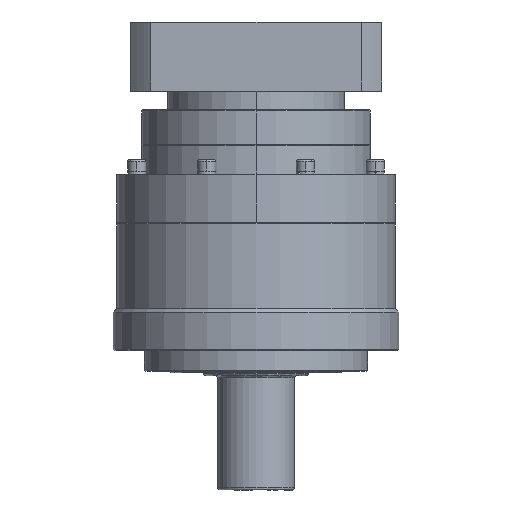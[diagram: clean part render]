
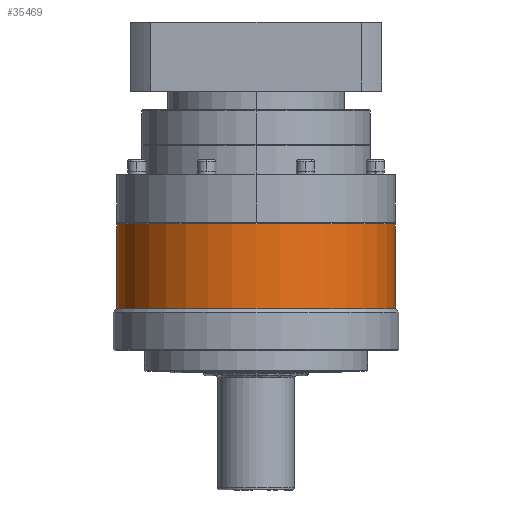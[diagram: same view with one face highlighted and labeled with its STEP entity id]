
A CAD part, front view. The second image highlights one B-rep face of the part: STEP entity #35469.
In plain terms, the highlighted cylindrical face has radius 100 mm (diameter 200 mm), a partial arc.
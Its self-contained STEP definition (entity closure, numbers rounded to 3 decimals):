
#588 = DIRECTION ( 'NONE',  ( 0., 0., 1. ) ) ;
#781 = DIRECTION ( 'NONE',  ( 0., 0., 1. ) ) ;
#1391 = CARTESIAN_POINT ( 'NONE',  ( 42.343, 18.696, -8.25 ) ) ;
#3142 = EDGE_CURVE ( 'NONE', #7784, #40840, #15140, .T. ) ;
#3430 = DIRECTION ( 'NONE',  ( 0., 0., 1. ) ) ;
#3616 = CARTESIAN_POINT ( 'NONE',  ( 42.343, 18.696, -331.063 ) ) ;
#3713 = CYLINDRICAL_SURFACE ( 'NONE', #22245, 100. ) ;
#3859 = DIRECTION ( 'NONE',  ( 1., 0., 0. ) ) ;
#4079 = EDGE_CURVE ( 'NONE', #27295, #40840, #36646, .T. ) ;
#7666 = EDGE_LOOP ( 'NONE', ( #34136, #22342, #11146, #18364 ) ) ;
#7784 = VERTEX_POINT ( 'NONE', #11626 ) ;
#9269 = EDGE_CURVE ( 'NONE', #35922, #7784, #22807, .T. ) ;
#9848 = CARTESIAN_POINT ( 'NONE',  ( -157.657, 18.696, -8.25 ) ) ;
#11146 = ORIENTED_EDGE ( 'NONE', *, *, #4079, .T. ) ;
#11626 = CARTESIAN_POINT ( 'NONE',  ( -157.657, 18.696, 52.45 ) ) ;
#15140 = CIRCLE ( 'NONE', #38090, 100. ) ;
#15761 = CARTESIAN_POINT ( 'NONE',  ( -57.657, 18.696, -8.25 ) ) ;
#15911 = DIRECTION ( 'NONE',  ( 0., 0., 1. ) ) ;
#16631 = DIRECTION ( 'NONE',  ( -1., 0., 0. ) ) ;
#16736 = CARTESIAN_POINT ( 'NONE',  ( -157.657, 18.696, -331.063 ) ) ;
#18364 = ORIENTED_EDGE ( 'NONE', *, *, #3142, .F. ) ;
#22245 = AXIS2_PLACEMENT_3D ( 'NONE', #23526, #39882, #3859 ) ;
#22342 = ORIENTED_EDGE ( 'NONE', *, *, #32944, .T. ) ;
#22807 = LINE ( 'NONE', #16736, #33099 ) ;
#23526 = CARTESIAN_POINT ( 'NONE',  ( -57.657, 18.696, -331.063 ) ) ;
#27295 = VERTEX_POINT ( 'NONE', #1391 ) ;
#27493 = CIRCLE ( 'NONE', #33115, 100. ) ;
#27921 = VECTOR ( 'NONE', #588, 1000. ) ;
#29959 = CARTESIAN_POINT ( 'NONE',  ( -57.657, 18.696, 52.45 ) ) ;
#31658 = CARTESIAN_POINT ( 'NONE',  ( 42.343, 18.696, 52.45 ) ) ;
#32944 = EDGE_CURVE ( 'NONE', #35922, #27295, #27493, .T. ) ;
#33099 = VECTOR ( 'NONE', #781, 1000. ) ;
#33115 = AXIS2_PLACEMENT_3D ( 'NONE', #15761, #15911, #42032 ) ;
#34136 = ORIENTED_EDGE ( 'NONE', *, *, #9269, .F. ) ;
#35469 = ADVANCED_FACE ( 'NONE', ( #40184 ), #3713, .T. ) ;
#35922 = VERTEX_POINT ( 'NONE', #9848 ) ;
#36646 = LINE ( 'NONE', #3616, #27921 ) ;
#38090 = AXIS2_PLACEMENT_3D ( 'NONE', #29959, #3430, #16631 ) ;
#39882 = DIRECTION ( 'NONE',  ( 0., 0., 1. ) ) ;
#40184 = FACE_OUTER_BOUND ( 'NONE', #7666, .T. ) ;
#40840 = VERTEX_POINT ( 'NONE', #31658 ) ;
#42032 = DIRECTION ( 'NONE',  ( 1., 0., 0. ) ) ;
